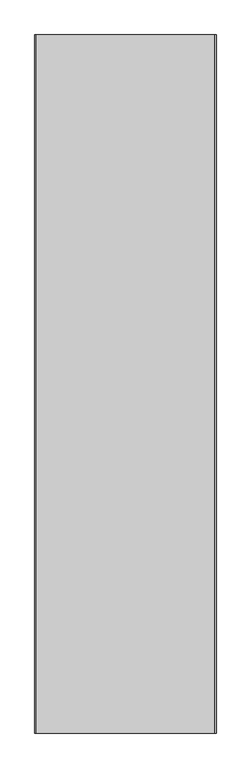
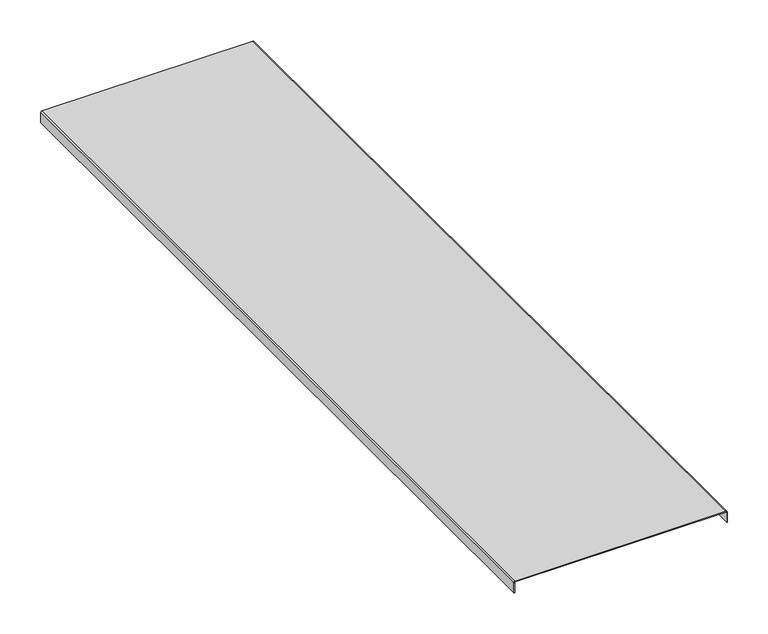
"""IFC4 building model written with IfcOpenShell, lengths in millimetres: proxy geometry, Cable_Tray_Cover_CT_Basorcanal : Basorcanal CT 100X300 (cover)."""

from ifc_helpers import new_model, si_unit, point, frame, frame_2d, origin, place, context, project, spatial, polyline, circle_curve, trimmed, segment, composite_curve, outline, extrude, source, transform, mapped, element, save


def generic_models_f54289ea(model_context):
    return source(origin(), model_context, "Body", "SweptSolid", [
        extrude(outline(composite_curve([segment(trimmed(circle_curve(frame_2d((-1.0, -149.0)), 1.0), [point((-1.0, -150.0))], [point((0.0, -149.0))], True, "CARTESIAN"), True, "CONTINUOUS"), segment(polyline([(0.0, -149.0), (0.0, 149.0)]), True, "CONTINUOUS"), segment(trimmed(circle_curve(frame_2d((-1.0, 149.0)), 1.0), [point((0.0, 149.0))], [point((-1.0, 150.0))], True, "CARTESIAN"), True, "CONTINUOUS"), segment(polyline([(-1.0, 150.0), (-16.0, 150.0), (-16.0, 151.0), (-1.0, 151.0)]), True, "CONTINUOUS"), segment(trimmed(circle_curve(frame_2d((-1.0, 149.0)), 2.0), [point((-1.0, 151.0))], [point((1.0, 149.0))], False, "CARTESIAN"), True, "CONTINUOUS"), segment(polyline([(1.0, 149.0), (1.0, -149.0)]), True, "CONTINUOUS"), segment(trimmed(circle_curve(frame_2d((-1.0, -149.0)), 2.0), [point((1.0, -149.0))], [point((-1.0, -151.0))], False, "CARTESIAN"), True, "CONTINUOUS"), segment(polyline([(-1.0, -151.0), (-16.0, -151.0), (-16.0, -150.0), (-1.0, -150.0)]), True, "CONTINUOUS")], self_intersect=False)), frame((0.0, 0.0, 0.0), z_axis=(0.0, 1.0, 0.0), x_axis=(0.0, 0.0, 1.0)), (0.0, 0.0, 1.0), 1160.7),
    ])


if __name__ == "__main__":
    model = new_model("IFC4")
    model_context = context("Model", 3, world=origin())
    ifc_project = project(units=[si_unit("LENGTHUNIT", "METRE", prefix="MILLI")], contexts=[model_context])
    site = spatial("IfcSite", under=ifc_project)
    building = spatial("IfcBuilding", under=site)
    placement = place(None, origin())
    generic_models_shape = generic_models_f54289ea(model_context)
    element("IfcBuildingElementProxy", 1, Name="Cable_Tray_Cover_CT_Basorcanal : Basorcanal CT 100X300 (cover)", ObjectType="Cable_Tray_Cover_CT_Basorcanal : Basorcanal CT 100X300 (cover)", at=placement, inside=building, context=model_context, shape_type="MappedRepresentation", body=[
        mapped(generic_models_shape, transform((0.0, 0.0, 0.0), x_axis=(1.0, 0.0, 0.0), y_axis=(0.0, 1.0, 0.0), z_axis=(0.0, 0.0, 1.0))),
    ])
    save(model, "model.ifc")
